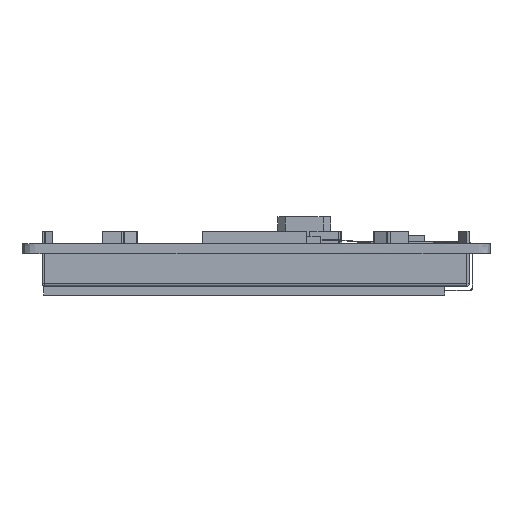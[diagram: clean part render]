
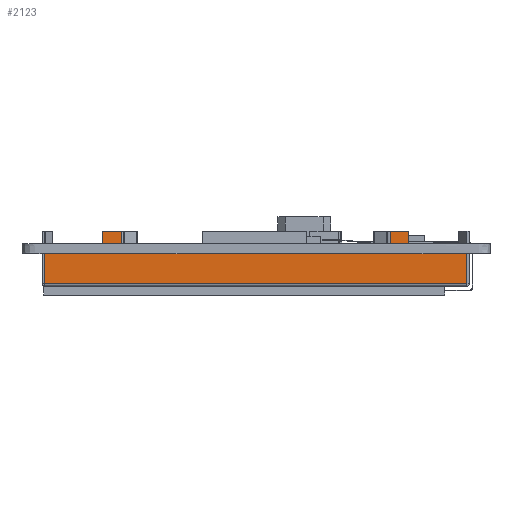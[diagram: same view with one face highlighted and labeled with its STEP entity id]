
A CAD part, left-side view. The second image highlights one B-rep face of the part: STEP entity #2123.
In plain terms, the highlighted planar face has unit normal (-1, 0, 0).
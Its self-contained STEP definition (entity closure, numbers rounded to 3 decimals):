
#2123=ADVANCED_FACE('',(#4280),#3348,.F.);
#3348=PLANE('',#25178);
#4280=FACE_OUTER_BOUND('',#5474,.T.);
#5474=EDGE_LOOP('',(#6867,#6868,#6869,#6870,#6871,#6872,#6873,#6874,#6875,
#6876,#6877,#6878,#6879,#6880,#6881,#6882));
#6867=ORIENTED_EDGE('',*,*,#16012,.T.);
#6868=ORIENTED_EDGE('',*,*,#16013,.F.);
#6869=ORIENTED_EDGE('',*,*,#16014,.F.);
#6870=ORIENTED_EDGE('',*,*,#16015,.T.);
#6871=ORIENTED_EDGE('',*,*,#16016,.T.);
#6872=ORIENTED_EDGE('',*,*,#16017,.T.);
#6873=ORIENTED_EDGE('',*,*,#16010,.T.);
#6874=ORIENTED_EDGE('',*,*,#16018,.F.);
#6875=ORIENTED_EDGE('',*,*,#16019,.T.);
#6876=ORIENTED_EDGE('',*,*,#16020,.F.);
#6877=ORIENTED_EDGE('',*,*,#16021,.F.);
#6878=ORIENTED_EDGE('',*,*,#16022,.T.);
#6879=ORIENTED_EDGE('',*,*,#16004,.T.);
#6880=ORIENTED_EDGE('',*,*,#16023,.F.);
#6881=ORIENTED_EDGE('',*,*,#16024,.F.);
#6882=ORIENTED_EDGE('',*,*,#16025,.T.);
#13727=VERTEX_POINT('',#33555);
#13728=VERTEX_POINT('',#33556);
#13733=VERTEX_POINT('',#33567);
#13734=VERTEX_POINT('',#33569);
#13735=VERTEX_POINT('',#33573);
#13736=VERTEX_POINT('',#33574);
#13737=VERTEX_POINT('',#33576);
#13738=VERTEX_POINT('',#33578);
#13739=VERTEX_POINT('',#33580);
#13740=VERTEX_POINT('',#33582);
#13741=VERTEX_POINT('',#33585);
#13742=VERTEX_POINT('',#33587);
#13743=VERTEX_POINT('',#33589);
#13744=VERTEX_POINT('',#33591);
#13745=VERTEX_POINT('',#33594);
#13746=VERTEX_POINT('',#33596);
#16004=EDGE_CURVE('',#13727,#13728,#19468,.T.);
#16010=EDGE_CURVE('',#13734,#13733,#19474,.T.);
#16012=EDGE_CURVE('',#13735,#13736,#19476,.T.);
#16013=EDGE_CURVE('',#13737,#13736,#19477,.T.);
#16014=EDGE_CURVE('',#13738,#13737,#19478,.T.);
#16015=EDGE_CURVE('',#13738,#13739,#19479,.T.);
#16016=EDGE_CURVE('',#13739,#13740,#19480,.T.);
#16017=EDGE_CURVE('',#13740,#13734,#19481,.T.);
#16018=EDGE_CURVE('',#13741,#13733,#19482,.T.);
#16019=EDGE_CURVE('',#13741,#13742,#19483,.T.);
#16020=EDGE_CURVE('',#13743,#13742,#19484,.T.);
#16021=EDGE_CURVE('',#13744,#13743,#19485,.T.);
#16022=EDGE_CURVE('',#13744,#13727,#19486,.T.);
#16023=EDGE_CURVE('',#13745,#13728,#19487,.T.);
#16024=EDGE_CURVE('',#13746,#13745,#19488,.T.);
#16025=EDGE_CURVE('',#13746,#13735,#19489,.T.);
#19468=LINE('',#33554,#22334);
#19474=LINE('',#33568,#22340);
#19476=LINE('',#33572,#22342);
#19477=LINE('',#33575,#22343);
#19478=LINE('',#33577,#22344);
#19479=LINE('',#33579,#22345);
#19480=LINE('',#33581,#22346);
#19481=LINE('',#33583,#22347);
#19482=LINE('',#33584,#22348);
#19483=LINE('',#33586,#22349);
#19484=LINE('',#33588,#22350);
#19485=LINE('',#33590,#22351);
#19486=LINE('',#33592,#22352);
#19487=LINE('',#33593,#22353);
#19488=LINE('',#33595,#22354);
#19489=LINE('',#33597,#22355);
#22334=VECTOR('',#27052,1.);
#22340=VECTOR('',#27060,1.);
#22342=VECTOR('',#27064,1.);
#22343=VECTOR('',#27065,1.);
#22344=VECTOR('',#27066,1.);
#22345=VECTOR('',#27067,1.);
#22346=VECTOR('',#27068,1.);
#22347=VECTOR('',#27069,1.);
#22348=VECTOR('',#27070,1.);
#22349=VECTOR('',#27071,1.);
#22350=VECTOR('',#27072,1.);
#22351=VECTOR('',#27073,1.);
#22352=VECTOR('',#27074,1.);
#22353=VECTOR('',#27075,1.);
#22354=VECTOR('',#27076,1.);
#22355=VECTOR('',#27077,1.);
#25178=AXIS2_PLACEMENT_3D('',#33598,#27078,#27079);
#27052=DIRECTION('',(0.,1.,0.));
#27060=DIRECTION('',(0.,1.,0.));
#27064=DIRECTION('',(0.,1.,0.));
#27065=DIRECTION('',(0.,0.,-1.));
#27066=DIRECTION('',(0.,-1.,0.));
#27067=DIRECTION('',(0.,0.,-1.));
#27068=DIRECTION('',(0.,1.,0.));
#27069=DIRECTION('',(0.,0.,-1.));
#27070=DIRECTION('',(0.,0.,-1.));
#27071=DIRECTION('',(0.,-1.,0.));
#27072=DIRECTION('',(0.,0.,-1.));
#27073=DIRECTION('',(0.,-1.,0.));
#27074=DIRECTION('',(0.,0.,-1.));
#27075=DIRECTION('',(0.,0.,1.));
#27076=DIRECTION('',(0.,1.,0.));
#27077=DIRECTION('',(0.,0.,1.));
#27078=DIRECTION('',(1.,0.,0.));
#27079=DIRECTION('',(0.,1.,0.));
#33554=CARTESIAN_POINT('',(67.65,-14.395,-1.6));
#33555=CARTESIAN_POINT('',(67.65,43.765,-1.6));
#33556=CARTESIAN_POINT('',(67.65,53.005,-1.6));
#33567=CARTESIAN_POINT('',(67.65,40.765,-1.6));
#33568=CARTESIAN_POINT('',(67.65,-14.395,-1.6));
#33569=CARTESIAN_POINT('',(67.65,-2.155,-1.6));
#33572=CARTESIAN_POINT('',(67.65,-14.395,-1.6));
#33573=CARTESIAN_POINT('',(67.65,-14.395,-1.6));
#33574=CARTESIAN_POINT('',(67.65,-5.155,-1.6));
#33575=CARTESIAN_POINT('',(67.65,-5.155,0.));
#33576=CARTESIAN_POINT('',(67.65,-5.155,2.));
#33577=CARTESIAN_POINT('',(67.65,-2.19,2.));
#33578=CARTESIAN_POINT('',(67.65,-2.19,2.));
#33579=CARTESIAN_POINT('',(67.65,-2.19,2.));
#33580=CARTESIAN_POINT('',(67.65,-2.19,0.));
#33581=CARTESIAN_POINT('',(67.65,-5.155,0.));
#33582=CARTESIAN_POINT('',(67.65,-2.155,0.));
#33583=CARTESIAN_POINT('',(67.65,-2.155,0.));
#33584=CARTESIAN_POINT('',(67.65,40.765,0.));
#33585=CARTESIAN_POINT('',(67.65,40.765,0.));
#33586=CARTESIAN_POINT('',(67.65,43.765,0.));
#33587=CARTESIAN_POINT('',(67.65,40.754,0.));
#33588=CARTESIAN_POINT('',(67.65,40.754,2.));
#33589=CARTESIAN_POINT('',(67.65,40.754,2.));
#33590=CARTESIAN_POINT('',(67.65,43.765,2.));
#33591=CARTESIAN_POINT('',(67.65,43.765,2.));
#33592=CARTESIAN_POINT('',(67.65,43.765,0.));
#33593=CARTESIAN_POINT('',(67.65,53.005,-6.4));
#33594=CARTESIAN_POINT('',(67.65,53.005,-6.4));
#33595=CARTESIAN_POINT('',(67.65,-14.395,-6.4));
#33596=CARTESIAN_POINT('',(67.65,-14.395,-6.4));
#33597=CARTESIAN_POINT('',(67.65,-14.395,-6.4));
#33598=CARTESIAN_POINT('',(67.65,-14.395,-6.4));
